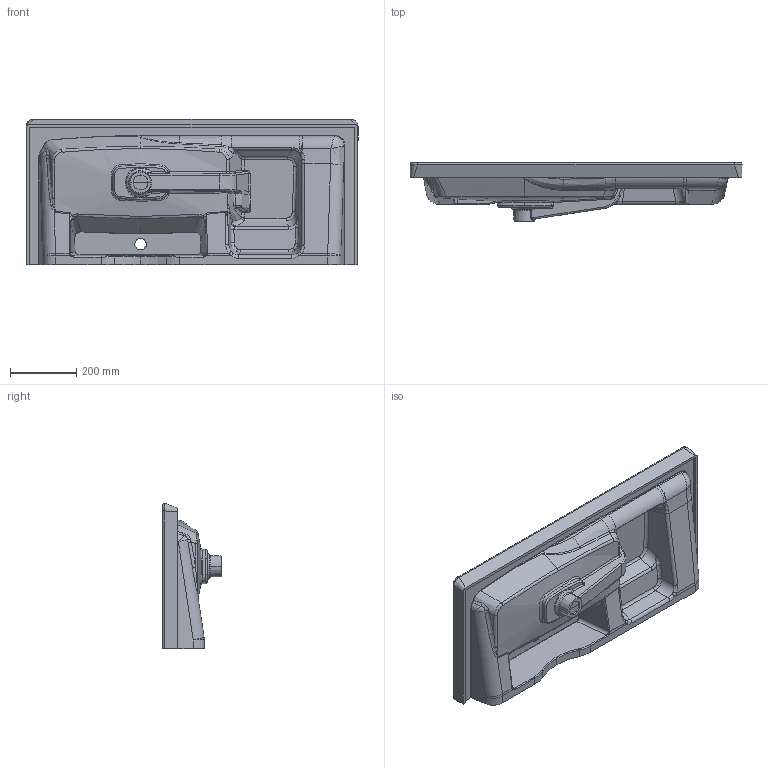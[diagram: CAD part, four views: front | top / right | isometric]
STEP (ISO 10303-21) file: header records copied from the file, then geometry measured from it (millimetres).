
FILE_DESCRIPTION (( 'STEP AP203' ), '1' );
FILE_NAME ('MY100-00CB00E-0000.STEP', '2022-04-20T07:08:39', ( '' ), ( '' ), 'SwSTEP 2.0', 'SolidWorks 2021', '' );
FILE_SCHEMA (( 'CONFIG_CONTROL_DESIGN' ));
Length unit declared in the file: millimetre
Products named in the file (1): MY100-00CB00E-0000
Bounding box: 999.82 x 176 x 437.76 mm (x, y, z)
Volume: 19504346 mm3; surface area: 1408765.3 mm2
Topology: 3 solids, 3 shells, 450 faces, 1130 edges, 681 vertices
Faces by surface type: bspline 231, cylinder 88, plane 64, torus 33, cone 20, sphere 14
Entity records: 36353 total; most frequent: CARTESIAN_POINT 27430, ORIENTED_EDGE 2232, DIRECTION 1379, EDGE_CURVE 1116, VERTEX_POINT 681, AXIS2_PLACEMENT_3D 570, EDGE_LOOP 463, FACE_OUTER_BOUND 450
